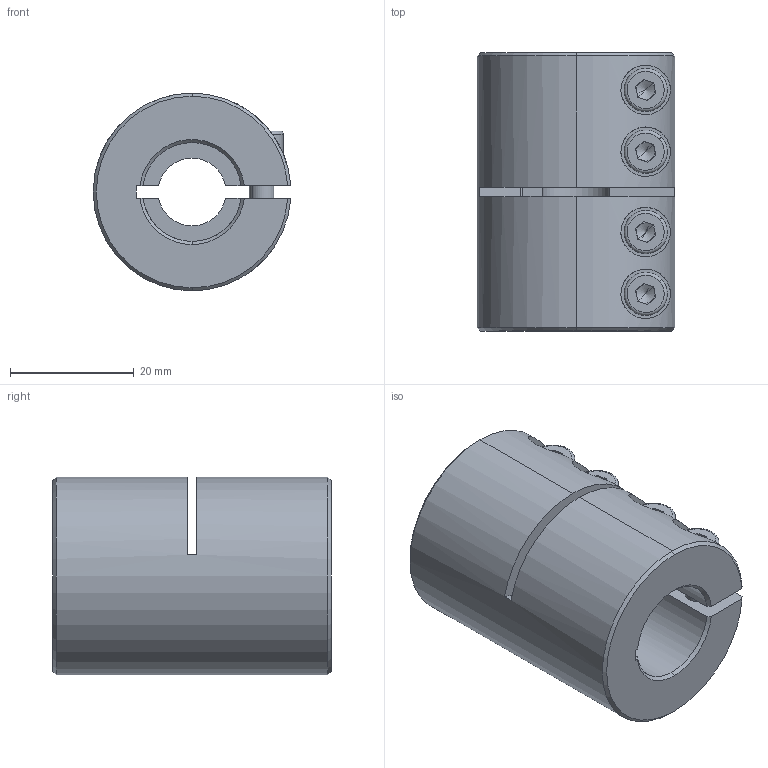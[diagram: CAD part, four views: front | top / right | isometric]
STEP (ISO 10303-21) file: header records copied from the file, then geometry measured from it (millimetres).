
FILE_DESCRIPTION (( 'STEP AP214' ), '1' );
FILE_NAME ('LL-B-D32L45-11-16½¨Ä£.STEP', '2022-07-21T07:10:31', ( '' ), ( '' ), 'SwSTEP 2.0', 'SolidWorks 2022', '' );
FILE_SCHEMA (( 'AUTOMOTIVE_DESIGN' ));
Length unit declared in the file: millimetre
Products named in the file (1): LL-B-D32L45-11-16膘耀
Bounding box: 31.97 x 45 x 32 mm (x, y, z)
Volume: 27504 mm3; surface area: 10859.9 mm2
Topology: 1 solids, 1 shells, 193 faces, 492 edges, 309 vertices
Faces by surface type: plane 88, cylinder 77, cone 20, torus 8
Entity records: 6357 total; most frequent: CARTESIAN_POINT 1583, DIRECTION 1037, ORIENTED_EDGE 968, EDGE_CURVE 484, AXIS2_PLACEMENT_3D 403, VERTEX_POINT 309, VECTOR 231, LINE 231
